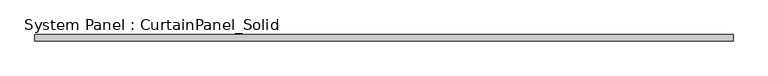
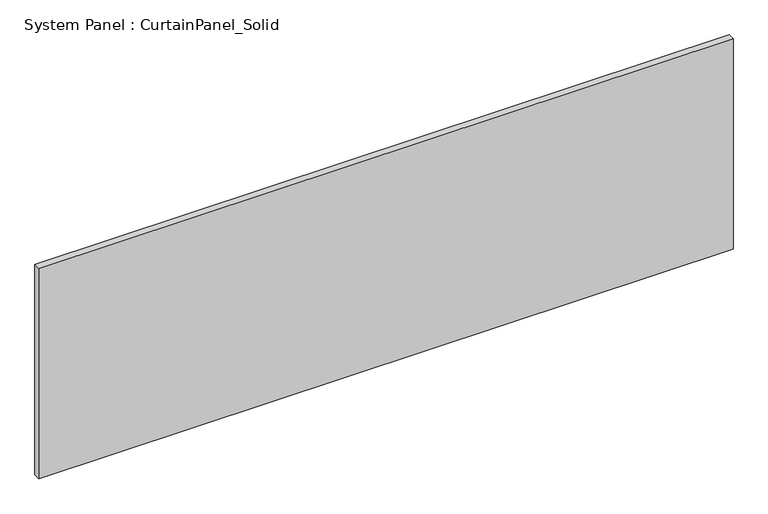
"""IFC4 building model written with IfcOpenShell, lengths in millimetres: plate geometry, System Panel : CurtainPanel_Solid."""

from ifc_helpers import new_model, si_unit, origin, origin_with_axes, place, context, project, spatial, polyline, outline, extrude, source, transform, mapped, element, save


def system_panel_curtainpanel_solid_444add22(model_context):
    return source(origin(), model_context, "Body", "SweptSolid", [
        extrude(outline(polyline([(1325.9999999, -12.5), (-1325.9999999, -12.5), (-1325.9999999, 12.5), (1325.9999999, 12.5), (1325.9999999, -12.5)])), origin_with_axes(), (0.0, 0.0, 1.0), 850.0),
    ])


if __name__ == "__main__":
    model = new_model("IFC4")
    model_context = context("Model", 3, world=origin())
    ifc_project = project(units=[si_unit("LENGTHUNIT", "METRE", prefix="MILLI")], contexts=[model_context])
    site = spatial("IfcSite", under=ifc_project)
    building = spatial("IfcBuilding", under=site)
    placement = place(None, origin())
    system_panel_curtainpanel_solid_shape = system_panel_curtainpanel_solid_444add22(model_context)
    element("IfcPlate", 1, ObjectType="System Panel : CurtainPanel_Solid", at=placement, inside=building, context=model_context, shape_type="MappedRepresentation", body=[
        mapped(system_panel_curtainpanel_solid_shape, transform((0.0, 0.0, 0.0), x_axis=(1.0, 0.0, 0.0), y_axis=(0.0, 1.0, 0.0), z_axis=(0.0, 0.0, 1.0))),
    ])
    save(model, "model.ifc")
